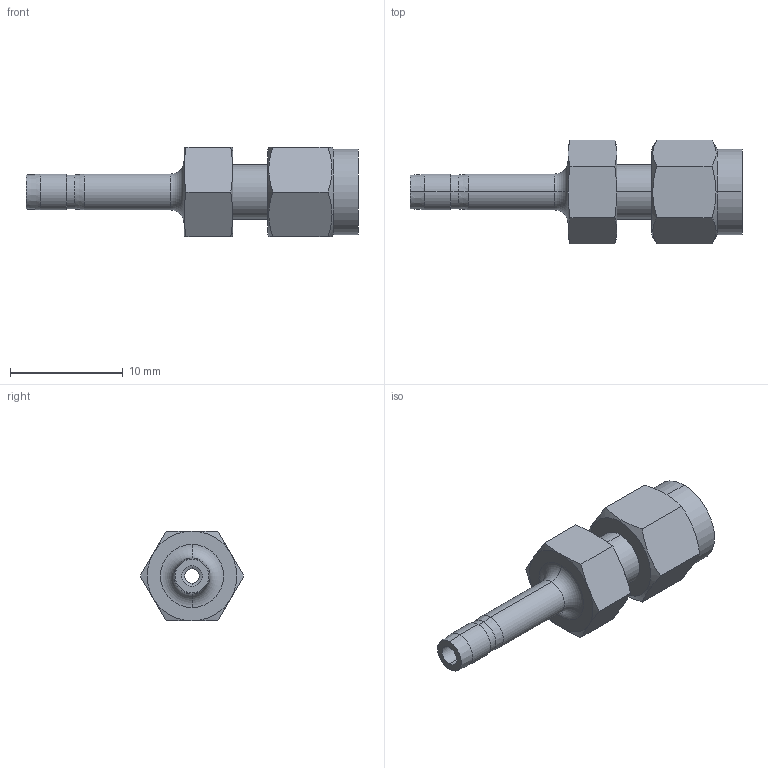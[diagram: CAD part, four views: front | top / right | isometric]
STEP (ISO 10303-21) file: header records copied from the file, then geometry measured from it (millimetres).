
FILE_DESCRIPTION (( 'STEP AP203' ), '1' );
FILE_NAME ('DRE01-02 SS.STEP', '2009-09-08T08:36:48', ( ' ' ), ( '' ), 'SwSTEP 2.0', 'SolidWorks 2008', '' );
FILE_SCHEMA (( 'CONFIG_CONTROL_DESIGN' ));
Length unit declared in the file: millimetre
Products named in the file (1): DRE01-02 SS
Bounding box: 29.4 x 9.17 x 7.94 mm (x, y, z)
Volume: 754.4 mm3; surface area: 830.2 mm2
Topology: 1 solids, 1 shells, 60 faces, 132 edges, 78 vertices
Faces by surface type: cone 24, plane 18, cylinder 16, torus 2
Entity records: 1797 total; most frequent: CARTESIAN_POINT 439, DIRECTION 266, ORIENTED_EDGE 264, EDGE_CURVE 132, AXIS2_PLACEMENT_3D 113, VERTEX_POINT 78, EDGE_LOOP 66, ADVANCED_FACE 60
